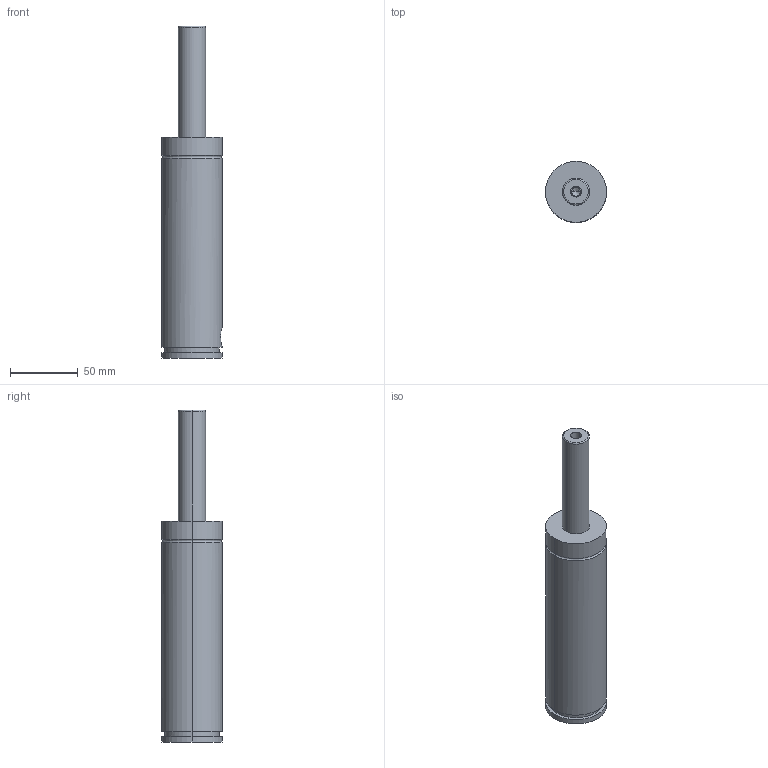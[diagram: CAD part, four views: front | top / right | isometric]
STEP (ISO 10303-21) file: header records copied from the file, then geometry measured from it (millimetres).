
FILE_DESCRIPTION(/* description */ (''),/* implementation_level */ '2;1');
FILE_NAME(/* name */ '3d_gse45-80_03888_r00.stp',/* time_stamp */ '2011-01-10T14:15:19+09:00',/* author */ ('MISUMI'),/* organization */ (''),/* preprocessor_version */ 'ST-DEVELOPER v11',/* originating_system */ 'UGS - NX 5.0',/* authorisation */ '');
FILE_SCHEMA (('CONFIG_CONTROL_DESIGN'));
Length unit declared in the file: millimetre
Products named in the file (1): 3d_gse45-80_03888_r00
Bounding box: 45 x 45 x 245 mm (x, y, z)
Volume: 280808.1 mm3; surface area: 33473 mm2
Topology: 1 solids, 1 shells, 57 faces, 122 edges, 77 vertices
Faces by surface type: cylinder 26, plane 21, cone 6, torus 4
Entity records: 1648 total; most frequent: DIRECTION 296, CARTESIAN_POINT 279, ORIENTED_EDGE 240, AXIS2_PLACEMENT_3D 122, EDGE_CURVE 120, VERTEX_POINT 77, EDGE_LOOP 69, CIRCLE 64
